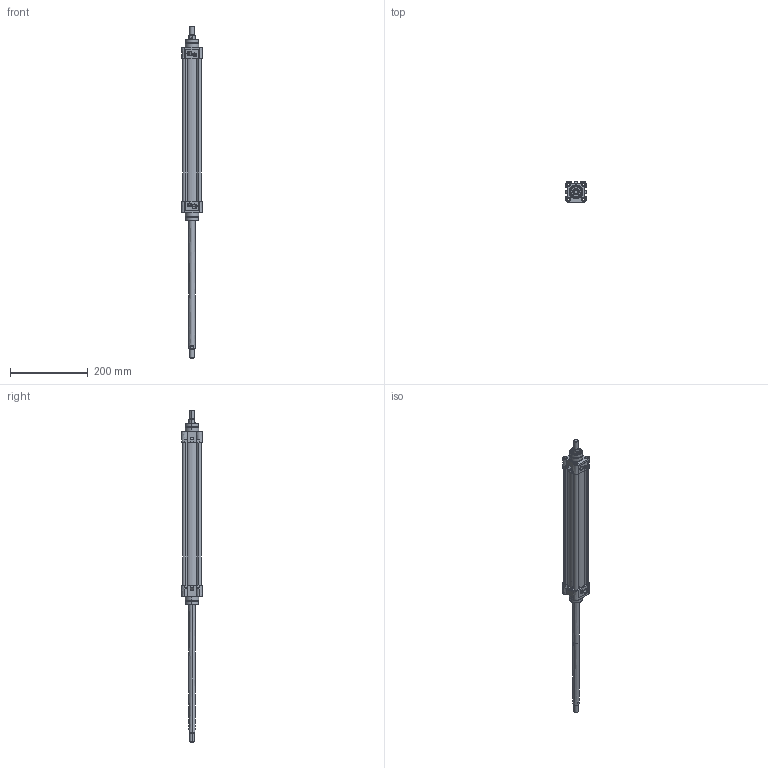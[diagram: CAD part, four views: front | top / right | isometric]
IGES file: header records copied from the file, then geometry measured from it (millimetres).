
Start section: SolidWorks IGES file using analytic representation for surfaces
Global section: file name: D:\ARICA 3D 禽Z軲LER\3D IGES\MDNC 禽FT M軱L輁MDNC40\MDNC40X320CIFTMILLI-CYLINDER.IGS; native system: SolidWorks 2013; preprocessor: SolidWorks 2013; author: user; date: 160401.144057; units: millimetre
Bounding box: 53 x 53.3 x 853.1 mm (x, y, z)
Surface area: 251674.3 mm2 (no closed solid volume)
Topology: 0 solids, 0 shells, 689 faces, 11482 edges, 11480 vertices
Faces by surface type: revolution 433, bspline 256
